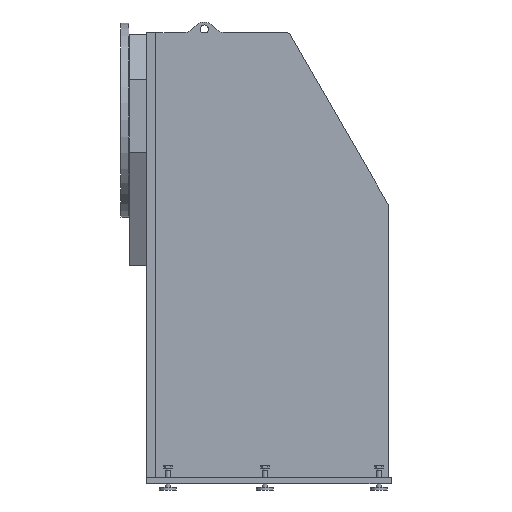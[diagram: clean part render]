
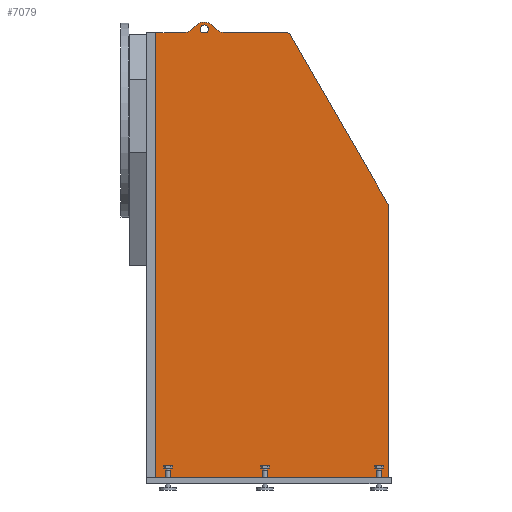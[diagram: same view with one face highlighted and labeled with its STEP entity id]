
A CAD part, front view. The second image highlights one B-rep face of the part: STEP entity #7079.
In plain terms, the highlighted planar face has unit normal (0, -1, 0).
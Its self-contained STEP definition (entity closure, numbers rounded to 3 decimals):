
#2788=CARTESIAN_POINT('',(0.,-325.,-1475.));
#2789=VERTEX_POINT('',#2788);
#2796=CARTESIAN_POINT('',(0.,-325.0,360.0));
#2797=VERTEX_POINT('',#2796);
#2798=CARTESIAN_POINT('',(0.,-325.,-1475.));
#2799=DIRECTION('',(0.0,0.0,1.0));
#2800=VECTOR('',#2799,1835.);
#2801=LINE('',#2798,#2800);
#2802=EDGE_CURVE('',#2789,#2797,#2801,.T.);
#3091=CARTESIAN_POINT('',(208.724,-325.,360.));
#3092=VERTEX_POINT('',#3091);
#3099=CARTESIAN_POINT('',(190.696,-325.,360.));
#3100=VERTEX_POINT('',#3099);
#3101=CARTESIAN_POINT('',(199.71,-325.,375.));
#3102=DIRECTION('',(0.0,1.0,0.0));
#3103=DIRECTION('',(1.0,0.0,0.0));
#3104=AXIS2_PLACEMENT_3D('',#3101,#3102,#3103);
#3105=CIRCLE('',#3104,17.5);
#3106=EDGE_CURVE('',#3100,#3092,#3105,.T.);
#6767=CARTESIAN_POINT('',(538.452,-325.,360.));
#6768=VERTEX_POINT('',#6767);
#6769=CARTESIAN_POINT('',(555.773,-325.,349.999));
#6770=VERTEX_POINT('',#6769);
#6771=CARTESIAN_POINT('',(538.452,-325.,340.));
#6772=DIRECTION('',(0.,1.0,0.));
#6773=DIRECTION('',(0.5,0.,0.866));
#6774=AXIS2_PLACEMENT_3D('',#6771,#6772,#6773);
#6775=CIRCLE('',#6774,20.);
#6776=EDGE_CURVE('',#6768,#6770,#6775,.T.);
#6799=CARTESIAN_POINT('',(113.621,-325.,360.));
#6800=VERTEX_POINT('',#6799);
#6801=CARTESIAN_POINT('',(0.,-325.0,360.0));
#6802=DIRECTION('',(1.0,0.0,0.0));
#6803=VECTOR('',#6802,113.621);
#6804=LINE('',#6801,#6803);
#6805=EDGE_CURVE('',#2797,#6800,#6804,.T.);
#6815=CARTESIAN_POINT('',(190.696,-325.,360.));
#6816=DIRECTION('',(1.0,0.0,0.0));
#6817=VECTOR('',#6816,18.028);
#6818=LINE('',#6815,#6817);
#6819=EDGE_CURVE('',#3100,#3092,#6818,.T.);
#6823=CARTESIAN_POINT('',(285.799,-325.,360.));
#6824=VERTEX_POINT('',#6823);
#6831=CARTESIAN_POINT('',(285.799,-325.,360.));
#6832=DIRECTION('',(1.0,0.0,0.0));
#6833=VECTOR('',#6832,252.653);
#6834=LINE('',#6831,#6833);
#6835=EDGE_CURVE('',#6824,#6768,#6834,.T.);
#6893=CARTESIAN_POINT('',(256.873,-325.,370.528));
#6894=VERTEX_POINT('',#6893);
#6901=CARTESIAN_POINT('',(285.799,-325.,405.));
#6902=DIRECTION('',(0.,-1.0,0.));
#6903=DIRECTION('',(-0.342,0.,-0.94));
#6904=AXIS2_PLACEMENT_3D('',#6901,#6902,#6903);
#6905=CIRCLE('',#6904,45.);
#6906=EDGE_CURVE('',#6894,#6824,#6905,.T.);
#6919=CARTESIAN_POINT('',(228.635,-325.,394.222));
#6920=VERTEX_POINT('',#6919);
#6927=CARTESIAN_POINT('',(228.635,-325.,394.222));
#6928=DIRECTION('',(0.766,0.0,-0.643));
#6929=VECTOR('',#6928,36.862);
#6930=LINE('',#6927,#6929);
#6931=EDGE_CURVE('',#6920,#6894,#6930,.T.);
#6943=CARTESIAN_POINT('',(142.547,-325.,370.528));
#6944=VERTEX_POINT('',#6943);
#6945=CARTESIAN_POINT('',(113.621,-325.,405.));
#6946=DIRECTION('',(0.,-1.,0.));
#6947=DIRECTION('',(0.342,0.,-0.94));
#6948=AXIS2_PLACEMENT_3D('',#6945,#6946,#6947);
#6949=CIRCLE('',#6948,45.);
#6950=EDGE_CURVE('',#6800,#6944,#6949,.T.);
#6966=CARTESIAN_POINT('',(170.785,-325.,394.222));
#6967=VERTEX_POINT('',#6966);
#6968=CARTESIAN_POINT('',(199.71,-325.,359.75));
#6969=DIRECTION('',(0.0,1.0,0.0));
#6970=DIRECTION('',(0.0,0.0,1.0));
#6971=AXIS2_PLACEMENT_3D('',#6968,#6969,#6970);
#6972=CIRCLE('',#6971,45.0);
#6973=EDGE_CURVE('',#6967,#6920,#6972,.T.);
#6992=CARTESIAN_POINT('',(960.,-325.,-350.253));
#6993=VERTEX_POINT('',#6992);
#6994=CARTESIAN_POINT('',(555.773,-325.,349.999));
#6995=DIRECTION('',(0.5,0.0,-0.866));
#6996=VECTOR('',#6995,808.549);
#6997=LINE('',#6994,#6996);
#6998=EDGE_CURVE('',#6770,#6993,#6997,.T.);
#7015=CARTESIAN_POINT('',(960.,-325.,-1475.));
#7016=VERTEX_POINT('',#7015);
#7017=CARTESIAN_POINT('',(960.,-325.,-350.253));
#7018=DIRECTION('',(0.0,0.0,-1.0));
#7019=VECTOR('',#7018,1124.747);
#7020=LINE('',#7017,#7019);
#7021=EDGE_CURVE('',#6993,#7016,#7020,.T.);
#7040=CARTESIAN_POINT('',(142.547,-325.,370.528));
#7041=DIRECTION('',(0.766,0.0,0.643));
#7042=VECTOR('',#7041,36.862);
#7043=LINE('',#7040,#7042);
#7044=EDGE_CURVE('',#6944,#6967,#7043,.T.);
#7051=CARTESIAN_POINT('',(434.977,-325.,-608.136));
#7052=DIRECTION('',(0.0,-1.0,0.0));
#7053=DIRECTION('',(1.0,0.0,0.0));
#7054=AXIS2_PLACEMENT_3D('',#7051,#7052,#7053);
#7055=PLANE('',#7054);
#7056=ORIENTED_EDGE('',*,*,#6906,.F.);
#7057=ORIENTED_EDGE('',*,*,#6931,.F.);
#7058=ORIENTED_EDGE('',*,*,#6973,.F.);
#7059=ORIENTED_EDGE('',*,*,#7044,.F.);
#7060=ORIENTED_EDGE('',*,*,#6950,.F.);
#7061=ORIENTED_EDGE('',*,*,#6805,.F.);
#7062=ORIENTED_EDGE('',*,*,#2802,.F.);
#7063=CARTESIAN_POINT('',(960.,-325.,-1475.));
#7064=DIRECTION('',(-1.0,0.0,0.0));
#7065=VECTOR('',#7064,960.0);
#7066=LINE('',#7063,#7065);
#7067=EDGE_CURVE('',#7016,#2789,#7066,.T.);
#7068=ORIENTED_EDGE('',*,*,#7067,.F.);
#7069=ORIENTED_EDGE('',*,*,#7021,.F.);
#7070=ORIENTED_EDGE('',*,*,#6998,.F.);
#7071=ORIENTED_EDGE('',*,*,#6776,.F.);
#7072=ORIENTED_EDGE('',*,*,#6835,.F.);
#7073=EDGE_LOOP('',(#7056,#7057,#7058,#7059,#7060,#7061,#7062,#7068,#7069,#7070,#7071,#7072));
#7074=FACE_OUTER_BOUND('',#7073,.T.);
#7075=ORIENTED_EDGE('',*,*,#3106,.T.);
#7076=ORIENTED_EDGE('',*,*,#6819,.F.);
#7077=EDGE_LOOP('',(#7075,#7076));
#7078=FACE_BOUND('',#7077,.T.);
#7079=ADVANCED_FACE('',(#7074,#7078),#7055,.T.);
